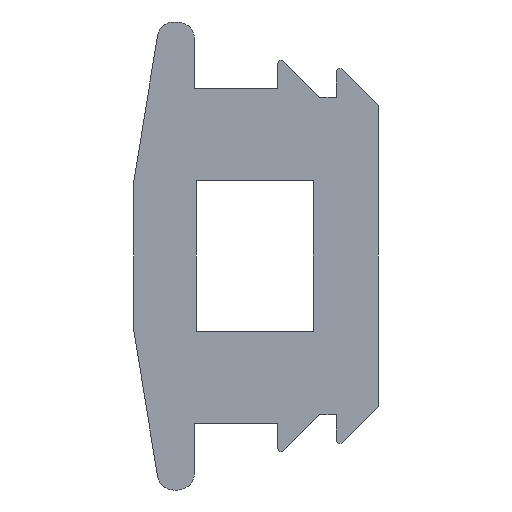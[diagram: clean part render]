
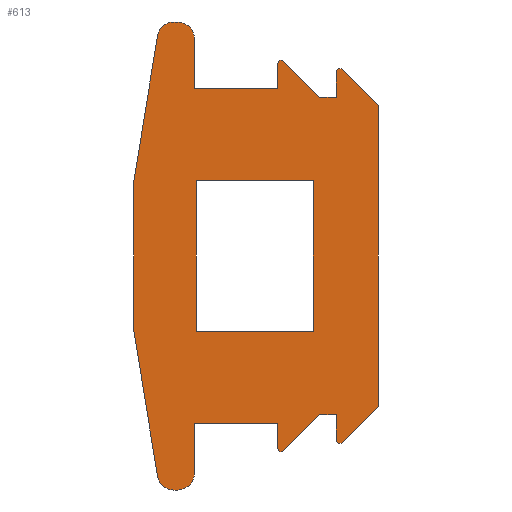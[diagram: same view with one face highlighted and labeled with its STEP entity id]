
A CAD part, left-side view. The second image highlights one B-rep face of the part: STEP entity #613.
In plain terms, the highlighted planar face has unit normal (-1, 0, 0).
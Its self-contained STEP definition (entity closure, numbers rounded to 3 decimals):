
#15=FACE_BOUND('',#83,.T.);
#18=CIRCLE('',#665,0.1);
#19=CIRCLE('',#668,0.5);
#20=CIRCLE('',#669,0.5);
#21=CIRCLE('',#670,27.672);
#22=CIRCLE('',#671,0.5);
#23=CIRCLE('',#672,0.5);
#24=CIRCLE('',#673,0.1);
#25=CIRCLE('',#674,0.1);
#26=CIRCLE('',#675,0.1);
#50=FACE_OUTER_BOUND('',#82,.T.);
#82=EDGE_LOOP('',(#428,#429,#430,#431,#432,#433,#434,#435,#436,#437,#438,
#439,#440,#441,#442,#443,#444,#445,#446,#447,#448,#449,#450,#451,#452,#453));
#83=EDGE_LOOP('',(#454,#455,#456,#457));
#110=LINE('',#887,#182);
#114=LINE('',#895,#186);
#117=LINE('',#901,#189);
#120=LINE('',#906,#192);
#124=LINE('',#919,#196);
#127=LINE('',#925,#199);
#128=LINE('',#927,#200);
#129=LINE('',#929,#201);
#130=LINE('',#933,#202);
#131=LINE('',#941,#203);
#132=LINE('',#945,#204);
#133=LINE('',#947,#205);
#134=LINE('',#949,#206);
#135=LINE('',#953,#207);
#136=LINE('',#955,#208);
#137=LINE('',#957,#209);
#138=LINE('',#961,#210);
#139=LINE('',#963,#211);
#140=LINE('',#965,#212);
#141=LINE('',#969,#213);
#142=LINE('',#970,#214);
#182=VECTOR('',#713,10.);
#186=VECTOR('',#719,10.);
#189=VECTOR('',#724,10.);
#192=VECTOR('',#729,10.);
#196=VECTOR('',#741,10.);
#199=VECTOR('',#746,10.);
#200=VECTOR('',#747,10.);
#201=VECTOR('',#748,10.);
#202=VECTOR('',#751,10.);
#203=VECTOR('',#758,10.);
#204=VECTOR('',#761,10.);
#205=VECTOR('',#762,10.);
#206=VECTOR('',#763,10.);
#207=VECTOR('',#766,10.);
#208=VECTOR('',#767,10.);
#209=VECTOR('',#768,10.);
#210=VECTOR('',#771,10.);
#211=VECTOR('',#772,10.);
#212=VECTOR('',#773,10.);
#213=VECTOR('',#776,10.);
#214=VECTOR('',#777,10.);
#254=VERTEX_POINT('',#885);
#255=VERTEX_POINT('',#886);
#258=VERTEX_POINT('',#894);
#260=VERTEX_POINT('',#900);
#264=VERTEX_POINT('',#912);
#265=VERTEX_POINT('',#914);
#266=VERTEX_POINT('',#918);
#268=VERTEX_POINT('',#924);
#269=VERTEX_POINT('',#926);
#270=VERTEX_POINT('',#928);
#271=VERTEX_POINT('',#930);
#272=VERTEX_POINT('',#932);
#273=VERTEX_POINT('',#934);
#274=VERTEX_POINT('',#936);
#275=VERTEX_POINT('',#938);
#276=VERTEX_POINT('',#940);
#277=VERTEX_POINT('',#942);
#278=VERTEX_POINT('',#944);
#279=VERTEX_POINT('',#946);
#280=VERTEX_POINT('',#948);
#281=VERTEX_POINT('',#950);
#282=VERTEX_POINT('',#952);
#283=VERTEX_POINT('',#954);
#284=VERTEX_POINT('',#956);
#285=VERTEX_POINT('',#958);
#286=VERTEX_POINT('',#960);
#287=VERTEX_POINT('',#962);
#288=VERTEX_POINT('',#964);
#289=VERTEX_POINT('',#966);
#290=VERTEX_POINT('',#968);
#314=EDGE_CURVE('',#254,#255,#110,.T.);
#318=EDGE_CURVE('',#255,#258,#114,.T.);
#321=EDGE_CURVE('',#258,#260,#117,.T.);
#324=EDGE_CURVE('',#260,#254,#120,.T.);
#328=EDGE_CURVE('',#264,#265,#18,.T.);
#330=EDGE_CURVE('',#266,#265,#124,.T.);
#333=EDGE_CURVE('',#264,#268,#127,.T.);
#334=EDGE_CURVE('',#268,#269,#128,.T.);
#335=EDGE_CURVE('',#269,#270,#129,.T.);
#336=EDGE_CURVE('',#271,#270,#19,.T.);
#337=EDGE_CURVE('',#271,#272,#130,.T.);
#338=EDGE_CURVE('',#273,#272,#20,.T.);
#339=EDGE_CURVE('',#273,#274,#21,.T.);
#340=EDGE_CURVE('',#275,#274,#22,.T.);
#341=EDGE_CURVE('',#275,#276,#131,.T.);
#342=EDGE_CURVE('',#277,#276,#23,.T.);
#343=EDGE_CURVE('',#277,#278,#132,.T.);
#344=EDGE_CURVE('',#278,#279,#133,.T.);
#345=EDGE_CURVE('',#279,#280,#134,.T.);
#346=EDGE_CURVE('',#281,#280,#24,.T.);
#347=EDGE_CURVE('',#281,#282,#135,.T.);
#348=EDGE_CURVE('',#282,#283,#136,.T.);
#349=EDGE_CURVE('',#283,#284,#137,.T.);
#350=EDGE_CURVE('',#285,#284,#25,.T.);
#351=EDGE_CURVE('',#285,#286,#138,.T.);
#352=EDGE_CURVE('',#286,#287,#139,.T.);
#353=EDGE_CURVE('',#287,#288,#140,.T.);
#354=EDGE_CURVE('',#289,#288,#26,.T.);
#355=EDGE_CURVE('',#289,#290,#141,.T.);
#356=EDGE_CURVE('',#290,#266,#142,.T.);
#428=ORIENTED_EDGE('',*,*,#328,.F.);
#429=ORIENTED_EDGE('',*,*,#333,.T.);
#430=ORIENTED_EDGE('',*,*,#334,.T.);
#431=ORIENTED_EDGE('',*,*,#335,.T.);
#432=ORIENTED_EDGE('',*,*,#336,.F.);
#433=ORIENTED_EDGE('',*,*,#337,.T.);
#434=ORIENTED_EDGE('',*,*,#338,.F.);
#435=ORIENTED_EDGE('',*,*,#339,.T.);
#436=ORIENTED_EDGE('',*,*,#340,.F.);
#437=ORIENTED_EDGE('',*,*,#341,.T.);
#438=ORIENTED_EDGE('',*,*,#342,.F.);
#439=ORIENTED_EDGE('',*,*,#343,.T.);
#440=ORIENTED_EDGE('',*,*,#344,.T.);
#441=ORIENTED_EDGE('',*,*,#345,.T.);
#442=ORIENTED_EDGE('',*,*,#346,.F.);
#443=ORIENTED_EDGE('',*,*,#347,.T.);
#444=ORIENTED_EDGE('',*,*,#348,.T.);
#445=ORIENTED_EDGE('',*,*,#349,.T.);
#446=ORIENTED_EDGE('',*,*,#350,.F.);
#447=ORIENTED_EDGE('',*,*,#351,.T.);
#448=ORIENTED_EDGE('',*,*,#352,.T.);
#449=ORIENTED_EDGE('',*,*,#353,.T.);
#450=ORIENTED_EDGE('',*,*,#354,.F.);
#451=ORIENTED_EDGE('',*,*,#355,.T.);
#452=ORIENTED_EDGE('',*,*,#356,.T.);
#453=ORIENTED_EDGE('',*,*,#330,.T.);
#454=ORIENTED_EDGE('',*,*,#314,.T.);
#455=ORIENTED_EDGE('',*,*,#318,.T.);
#456=ORIENTED_EDGE('',*,*,#321,.T.);
#457=ORIENTED_EDGE('',*,*,#324,.T.);
#589=PLANE('',#667);
#613=ADVANCED_FACE('',(#50,#15),#589,.F.);
#665=AXIS2_PLACEMENT_3D('',#915,#736,#737);
#667=AXIS2_PLACEMENT_3D('',#923,#744,#745);
#668=AXIS2_PLACEMENT_3D('',#931,#749,#750);
#669=AXIS2_PLACEMENT_3D('',#935,#752,#753);
#670=AXIS2_PLACEMENT_3D('',#937,#754,#755);
#671=AXIS2_PLACEMENT_3D('',#939,#756,#757);
#672=AXIS2_PLACEMENT_3D('',#943,#759,#760);
#673=AXIS2_PLACEMENT_3D('',#951,#764,#765);
#674=AXIS2_PLACEMENT_3D('',#959,#769,#770);
#675=AXIS2_PLACEMENT_3D('',#967,#774,#775);
#713=DIRECTION('',(0.,0.,1.));
#719=DIRECTION('',(0.,-1.,0.));
#724=DIRECTION('',(0.,0.,-1.));
#729=DIRECTION('',(0.,1.,0.));
#736=DIRECTION('center_axis',(1.,0.,0.));
#737=DIRECTION('ref_axis',(0.,0.383,0.924));
#741=DIRECTION('',(0.,0.707,0.707));
#744=DIRECTION('center_axis',(1.,0.,0.));
#745=DIRECTION('ref_axis',(0.,0.,-1.));
#746=DIRECTION('',(0.,0.,-1.));
#747=DIRECTION('',(0.,1.,0.));
#748=DIRECTION('',(0.,0.,1.));
#749=DIRECTION('center_axis',(1.,0.,0.));
#750=DIRECTION('ref_axis',(0.,-0.707,0.707));
#751=DIRECTION('',(0.,1.,0.));
#752=DIRECTION('center_axis',(1.,0.,0.));
#753=DIRECTION('ref_axis',(0.,0.617,0.787));
#754=DIRECTION('center_axis',(-1.,0.,0.));
#755=DIRECTION('ref_axis',(0.,0.967,-0.253));
#756=DIRECTION('center_axis',(1.,0.,0.));
#757=DIRECTION('ref_axis',(0.,0.617,-0.787));
#758=DIRECTION('',(0.,-1.,0.));
#759=DIRECTION('center_axis',(1.,0.,0.));
#760=DIRECTION('ref_axis',(0.,-0.707,-0.707));
#761=DIRECTION('',(0.,0.,1.));
#762=DIRECTION('',(0.,-1.,0.));
#763=DIRECTION('',(0.,0.,-1.));
#764=DIRECTION('center_axis',(1.,0.,0.));
#765=DIRECTION('ref_axis',(0.,0.383,-0.924));
#766=DIRECTION('',(0.,-0.707,0.707));
#767=DIRECTION('',(0.,-1.,0.));
#768=DIRECTION('',(0.,0.,-1.));
#769=DIRECTION('center_axis',(1.,0.,0.));
#770=DIRECTION('ref_axis',(0.,0.383,-0.924));
#771=DIRECTION('',(0.,-0.707,0.707));
#772=DIRECTION('',(0.,0.,1.));
#773=DIRECTION('',(0.,0.707,0.707));
#774=DIRECTION('center_axis',(1.,0.,0.));
#775=DIRECTION('ref_axis',(0.,0.383,0.924));
#776=DIRECTION('',(0.,0.,-1.));
#777=DIRECTION('',(0.,1.,0.));
#885=CARTESIAN_POINT('',(-50.,1.2,-2.25));
#886=CARTESIAN_POINT('',(-50.,1.2,2.25));
#887=CARTESIAN_POINT('',(-50.,1.2,1.125));
#894=CARTESIAN_POINT('',(-50.,-2.3,2.25));
#895=CARTESIAN_POINT('',(-50.,-1.425,2.25));
#900=CARTESIAN_POINT('',(-50.,-2.3,-2.25));
#901=CARTESIAN_POINT('',(-50.,-2.3,-1.125));
#906=CARTESIAN_POINT('',(-50.,0.325,-2.25));
#912=CARTESIAN_POINT('',(-50.,-1.25,5.759));
#914=CARTESIAN_POINT('',(-50.,-1.421,5.829));
#915=CARTESIAN_POINT('Origin',(-50.,-1.35,5.759));
#918=CARTESIAN_POINT('',(-50.,-2.5,4.75));
#919=CARTESIAN_POINT('',(-50.,-1.25,6.));
#923=CARTESIAN_POINT('Origin',(-50.,-0.55,0.));
#924=CARTESIAN_POINT('',(-50.,-1.25,5.));
#925=CARTESIAN_POINT('',(-50.,-1.25,5.));
#926=CARTESIAN_POINT('',(-50.,1.25,5.));
#927=CARTESIAN_POINT('',(-50.,1.25,5.));
#928=CARTESIAN_POINT('',(-50.,1.25,6.5));
#929=CARTESIAN_POINT('',(-50.,1.25,7.));
#930=CARTESIAN_POINT('',(-50.,1.75,7.));
#931=CARTESIAN_POINT('Origin',(-50.,1.75,6.5));
#932=CARTESIAN_POINT('',(-50.,1.861,7.));
#933=CARTESIAN_POINT('',(-50.,2.25,7.));
#934=CARTESIAN_POINT('',(-50.,2.347,6.62));
#935=CARTESIAN_POINT('Origin',(-50.,1.861,6.5));
#936=CARTESIAN_POINT('',(-50.,2.347,-6.62));
#937=CARTESIAN_POINT('Origin',(-50.,-24.522,0.));
#938=CARTESIAN_POINT('',(-50.,1.861,-7.));
#939=CARTESIAN_POINT('Origin',(-50.,1.861,-6.5));
#940=CARTESIAN_POINT('',(-50.,1.75,-7.));
#941=CARTESIAN_POINT('',(-50.,1.25,-7.));
#942=CARTESIAN_POINT('',(-50.,1.25,-6.5));
#943=CARTESIAN_POINT('Origin',(-50.,1.75,-6.5));
#944=CARTESIAN_POINT('',(-50.,1.25,-5.));
#945=CARTESIAN_POINT('',(-50.,1.25,-5.));
#946=CARTESIAN_POINT('',(-50.,-1.25,-5.));
#947=CARTESIAN_POINT('',(-50.,-1.25,-5.));
#948=CARTESIAN_POINT('',(-50.,-1.25,-5.759));
#949=CARTESIAN_POINT('',(-50.,-1.25,-6.));
#950=CARTESIAN_POINT('',(-50.,-1.421,-5.829));
#951=CARTESIAN_POINT('Origin',(-50.,-1.35,-5.759));
#952=CARTESIAN_POINT('',(-50.,-2.5,-4.75));
#953=CARTESIAN_POINT('',(-50.,-2.5,-4.75));
#954=CARTESIAN_POINT('',(-50.,-3.,-4.75));
#955=CARTESIAN_POINT('',(-50.,-3.,-4.75));
#956=CARTESIAN_POINT('',(-50.,-3.,-5.509));
#957=CARTESIAN_POINT('',(-50.,-3.,-5.75));
#958=CARTESIAN_POINT('',(-50.,-3.171,-5.579));
#959=CARTESIAN_POINT('Origin',(-50.,-3.1,-5.509));
#960=CARTESIAN_POINT('',(-50.,-4.25,-4.5));
#961=CARTESIAN_POINT('',(-50.,-4.25,-4.5));
#962=CARTESIAN_POINT('',(-50.,-4.25,4.5));
#963=CARTESIAN_POINT('',(-50.,-4.25,4.5));
#964=CARTESIAN_POINT('',(-50.,-3.171,5.579));
#965=CARTESIAN_POINT('',(-50.,-3.,5.75));
#966=CARTESIAN_POINT('',(-50.,-3.,5.509));
#967=CARTESIAN_POINT('Origin',(-50.,-3.1,5.509));
#968=CARTESIAN_POINT('',(-50.,-3.,4.75));
#969=CARTESIAN_POINT('',(-50.,-3.,4.75));
#970=CARTESIAN_POINT('',(-50.,-2.5,4.75));
